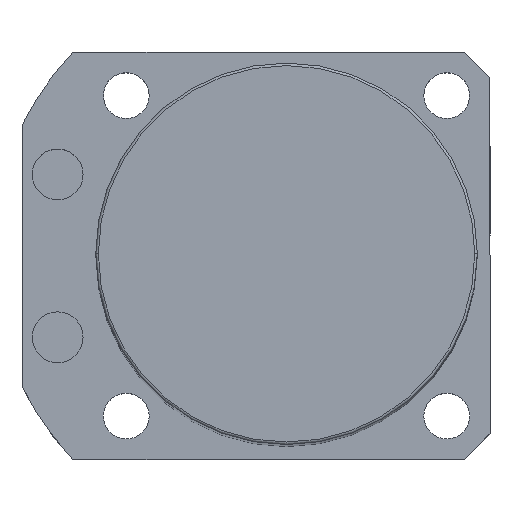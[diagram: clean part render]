
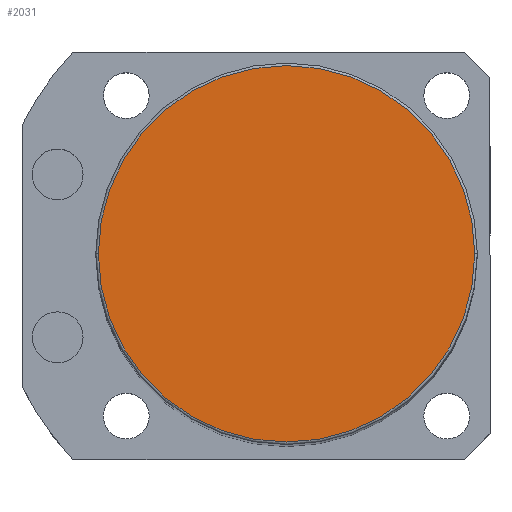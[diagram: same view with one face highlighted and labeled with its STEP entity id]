
A CAD part, top view. The second image highlights one B-rep face of the part: STEP entity #2031.
In plain terms, the highlighted planar face has unit normal (0, 0, 1).
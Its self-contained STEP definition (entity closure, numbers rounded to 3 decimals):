
#10 = CARTESIAN_POINT ( 'NONE',  ( 0., 0., 245.5 ) ) ;
#286 = DIRECTION ( 'NONE',  ( 0., 0., 1. ) ) ;
#313 = EDGE_CURVE ( 'NONE', #2308, #1881, #1445, .T. ) ;
#451 = DIRECTION ( 'NONE',  ( 1., 0., 0. ) ) ;
#506 = EDGE_LOOP ( 'NONE', ( #2793, #1852 ) ) ;
#712 = CARTESIAN_POINT ( 'NONE',  ( 0., 0., 245.5 ) ) ;
#727 = CARTESIAN_POINT ( 'NONE',  ( 37., 0., 245.5 ) ) ;
#738 = CARTESIAN_POINT ( 'NONE',  ( -37., 0., 245.5 ) ) ;
#1195 = AXIS2_PLACEMENT_3D ( 'NONE', #1620, #286, #2083 ) ;
#1344 = EDGE_CURVE ( 'NONE', #1881, #2308, #2299, .T. ) ;
#1445 = CIRCLE ( 'NONE', #1195, 37. ) ;
#1452 = AXIS2_PLACEMENT_3D ( 'NONE', #10, #1539, #2854 ) ;
#1521 = PLANE ( 'NONE',  #1452 ) ;
#1539 = DIRECTION ( 'NONE',  ( 0., 0., 1. ) ) ;
#1596 = FACE_OUTER_BOUND ( 'NONE', #506, .T. ) ;
#1620 = CARTESIAN_POINT ( 'NONE',  ( 0., 0., 245.5 ) ) ;
#1852 = ORIENTED_EDGE ( 'NONE', *, *, #1344, .T. ) ;
#1881 = VERTEX_POINT ( 'NONE', #738 ) ;
#2031 = ADVANCED_FACE ( 'NONE', ( #1596 ), #1521, .T. ) ;
#2083 = DIRECTION ( 'NONE',  ( 1., 0., 0. ) ) ;
#2299 = CIRCLE ( 'NONE', #2509, 37. ) ;
#2308 = VERTEX_POINT ( 'NONE', #727 ) ;
#2509 = AXIS2_PLACEMENT_3D ( 'NONE', #712, #2710, #451 ) ;
#2710 = DIRECTION ( 'NONE',  ( 0., 0., 1. ) ) ;
#2793 = ORIENTED_EDGE ( 'NONE', *, *, #313, .T. ) ;
#2854 = DIRECTION ( 'NONE',  ( 1., 0., 0. ) ) ;
